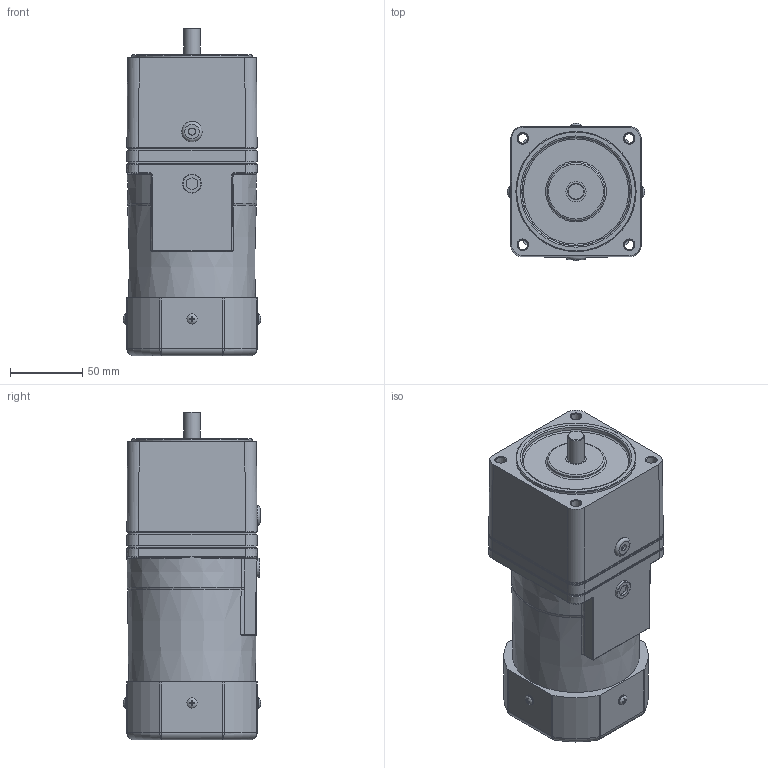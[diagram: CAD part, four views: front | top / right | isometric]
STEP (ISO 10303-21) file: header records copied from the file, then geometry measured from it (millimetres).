
FILE_DESCRIPTION (( 'STEP AP214' ), '1' );
FILE_NAME ('9CIDG¤±-60FP.STEP', '2025-01-13T08:08:10', ( '' ), ( '' ), 'SwSTEP 2.0', 'SolidWorks 2024', '' );
FILE_SCHEMA (( 'AUTOMOTIVE_DESIGN' ));
Length unit declared in the file: millimetre
Products named in the file (1): 9CIDGㅁ-60FP
Bounding box: 95.13 x 95.13 x 226.5 mm (x, y, z)
Volume: 1426079.2 mm3; surface area: 105838.6 mm2
Topology: 1 solids, 2 shells, 452 faces, 1106 edges, 697 vertices
Faces by surface type: plane 179, cylinder 146, cone 45, bspline 44, torus 36, sphere 2
Full cylindrical faces by diameter (mm): 4.8 x1, 6.1 x1, 6.5 x4, 7 x8, 8 x1, 11.39 x1, 13 x1, 14 x2, 40 x2, 83.1 x2
Entity records: 14314 total; most frequent: CARTESIAN_POINT 4291, DIRECTION 2029, ORIENTED_EDGE 2016, EDGE_CURVE 1008, AXIS2_PLACEMENT_3D 789, VERTEX_POINT 681, EDGE_LOOP 581, FACE_OUTER_BOUND 490
